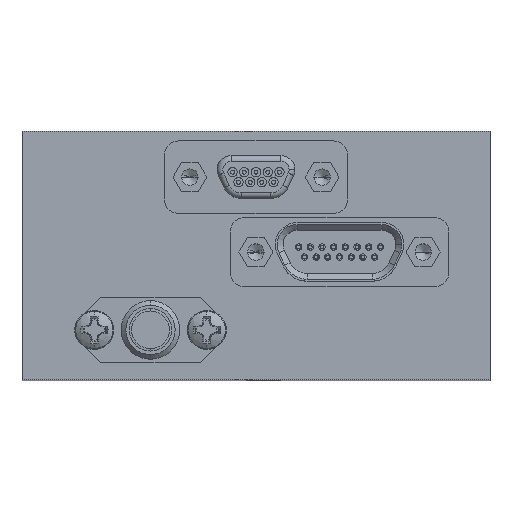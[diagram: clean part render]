
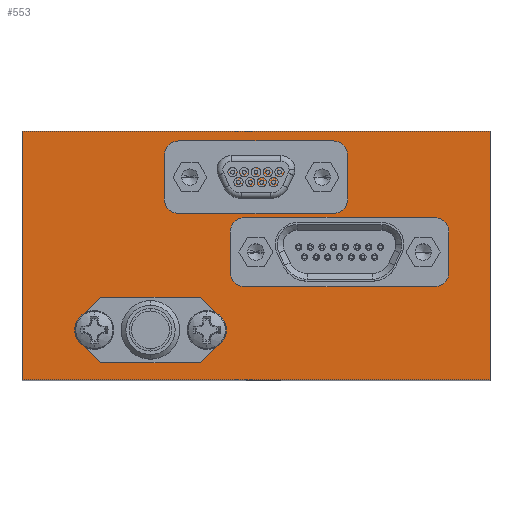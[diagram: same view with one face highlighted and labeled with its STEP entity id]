
A CAD part, top view. The second image highlights one B-rep face of the part: STEP entity #553.
In plain terms, the highlighted planar face has unit normal (0, 0, 1).
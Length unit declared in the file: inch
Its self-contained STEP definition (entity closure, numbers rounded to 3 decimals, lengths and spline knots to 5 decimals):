
#89 = DIRECTION ( 'NONE',  ( 0., 0., 1. ) ) ;
#204 = CIRCLE ( 'NONE', #15850, 0.01625 ) ;
#441 = EDGE_LOOP ( 'NONE', ( #11873, #1807 ) ) ;
#553 = ADVANCED_FACE ( 'NONE', ( #14785, #7347, #14635, #29196, #23839, #2289 ), #31094, .F. ) ;
#558 = CARTESIAN_POINT ( 'NONE',  ( 0., 1.062, 0. ) ) ;
#563 = VERTEX_POINT ( 'NONE', #11629 ) ;
#794 = CARTESIAN_POINT ( 'NONE',  ( 2., 0., 0. ) ) ;
#1580 = ORIENTED_EDGE ( 'NONE', *, *, #4910, .F. ) ;
#1768 = EDGE_LOOP ( 'NONE', ( #30789, #21768 ) ) ;
#1807 = ORIENTED_EDGE ( 'NONE', *, *, #23047, .F. ) ;
#2289 = FACE_OUTER_BOUND ( 'NONE', #9804, .T. ) ;
#2796 = EDGE_LOOP ( 'NONE', ( #28710, #4567 ) ) ;
#2813 = DIRECTION ( 'NONE',  ( 0., -1., 0. ) ) ;
#3402 = DIRECTION ( 'NONE',  ( 0., -1., 0. ) ) ;
#4567 = ORIENTED_EDGE ( 'NONE', *, *, #24326, .F. ) ;
#4684 = DIRECTION ( 'NONE',  ( 0., -1., 0. ) ) ;
#4779 = AXIS2_PLACEMENT_3D ( 'NONE', #13856, #89, #11645 ) ;
#4910 = EDGE_CURVE ( 'NONE', #21089, #11672, #7429, .T. ) ;
#5143 = CARTESIAN_POINT ( 'NONE',  ( 1.2825, 0.865, 0. ) ) ;
#5182 = CIRCLE ( 'NONE', #12238, 0.0375 ) ;
#5395 = AXIS2_PLACEMENT_3D ( 'NONE', #9634, #6934, #11531 ) ;
#5502 = CARTESIAN_POINT ( 'NONE',  ( 0.549, 0.2497, 0. ) ) ;
#5651 = CARTESIAN_POINT ( 'NONE',  ( 2., 1.062, 0. ) ) ;
#6394 = AXIS2_PLACEMENT_3D ( 'NONE', #7405, #24518, #2813 ) ;
#6635 = ORIENTED_EDGE ( 'NONE', *, *, #26699, .F. ) ;
#6934 = DIRECTION ( 'NONE',  ( 0., 0., 1. ) ) ;
#7315 = AXIS2_PLACEMENT_3D ( 'NONE', #9416, #28727, #19550 ) ;
#7347 = FACE_BOUND ( 'NONE', #2796, .T. ) ;
#7361 = DIRECTION ( 'NONE',  ( 0., 0., 1. ) ) ;
#7398 = DIRECTION ( 'NONE',  ( 0., -1., 0. ) ) ;
#7405 = CARTESIAN_POINT ( 'NONE',  ( 0.549, 0.2122, 0. ) ) ;
#7429 = CIRCLE ( 'NONE', #11469, 0.01625 ) ;
#7861 = VERTEX_POINT ( 'NONE', #12449 ) ;
#8465 = CARTESIAN_POINT ( 'NONE',  ( 0.7175, 0.84875, 0. ) ) ;
#8938 = EDGE_CURVE ( 'NONE', #563, #9822, #31160, .T. ) ;
#9273 = EDGE_CURVE ( 'NONE', #30607, #26691, #5182, .T. ) ;
#9416 = CARTESIAN_POINT ( 'NONE',  ( 0., 1.062, 0. ) ) ;
#9598 = CIRCLE ( 'NONE', #26778, 0.01625 ) ;
#9634 = CARTESIAN_POINT ( 'NONE',  ( 0.7175, 0.865, 0. ) ) ;
#9804 = EDGE_LOOP ( 'NONE', ( #26530, #6635, #19244, #19083 ) ) ;
#9822 = VERTEX_POINT ( 'NONE', #25037 ) ;
#10520 = LINE ( 'NONE', #558, #10606 ) ;
#10606 = VECTOR ( 'NONE', #29515, 39.37008 ) ;
#11025 = CARTESIAN_POINT ( 'NONE',  ( 0., 0., 0. ) ) ;
#11469 = AXIS2_PLACEMENT_3D ( 'NONE', #31139, #19275, #14360 ) ;
#11531 = DIRECTION ( 'NONE',  ( 0., -1., 0. ) ) ;
#11629 = CARTESIAN_POINT ( 'NONE',  ( 0., 1.062, 0. ) ) ;
#11645 = DIRECTION ( 'NONE',  ( 0., -1., 0. ) ) ;
#11646 = DIRECTION ( 'NONE',  ( 0., -1., 0. ) ) ;
#11672 = VERTEX_POINT ( 'NONE', #18758 ) ;
#11752 = DIRECTION ( 'NONE',  ( 0., -1., 0. ) ) ;
#11873 = ORIENTED_EDGE ( 'NONE', *, *, #16552, .F. ) ;
#12085 = VERTEX_POINT ( 'NONE', #14328 ) ;
#12238 = AXIS2_PLACEMENT_3D ( 'NONE', #24179, #12277, #4684 ) ;
#12277 = DIRECTION ( 'NONE',  ( 0., 0., 1. ) ) ;
#12449 = CARTESIAN_POINT ( 'NONE',  ( 1.2825, 0.88125, 0. ) ) ;
#12827 = CARTESIAN_POINT ( 'NONE',  ( 0.549, 0.1747, 0. ) ) ;
#12947 = EDGE_CURVE ( 'NONE', #9822, #26397, #20525, .T. ) ;
#13073 = VERTEX_POINT ( 'NONE', #16097 ) ;
#13204 = EDGE_CURVE ( 'NONE', #11672, #21089, #14071, .T. ) ;
#13379 = CARTESIAN_POINT ( 'NONE',  ( 0.9995, 0.5612, 0. ) ) ;
#13856 = CARTESIAN_POINT ( 'NONE',  ( 1.7145, 0.54495, 0. ) ) ;
#13967 = CARTESIAN_POINT ( 'NONE',  ( 1.2825, 0.84875, 0. ) ) ;
#13992 = CIRCLE ( 'NONE', #6394, 0.0375 ) ;
#14071 = CIRCLE ( 'NONE', #18127, 0.01625 ) ;
#14328 = CARTESIAN_POINT ( 'NONE',  ( 2., 1.062, 0. ) ) ;
#14360 = DIRECTION ( 'NONE',  ( 0., -1., 0. ) ) ;
#14635 = FACE_BOUND ( 'NONE', #24513, .T. ) ;
#14785 = FACE_BOUND ( 'NONE', #1768, .T. ) ;
#14866 = ORIENTED_EDGE ( 'NONE', *, *, #13204, .F. ) ;
#15850 = AXIS2_PLACEMENT_3D ( 'NONE', #29087, #28924, #7398 ) ;
#16097 = CARTESIAN_POINT ( 'NONE',  ( 1.7145, 0.5612, 0. ) ) ;
#16552 = EDGE_CURVE ( 'NONE', #20449, #7861, #9598, .T. ) ;
#16562 = ORIENTED_EDGE ( 'NONE', *, *, #27084, .F. ) ;
#16690 = EDGE_CURVE ( 'NONE', #563, #12085, #10520, .T. ) ;
#17809 = DIRECTION ( 'NONE',  ( 0., -1., 0. ) ) ;
#18127 = AXIS2_PLACEMENT_3D ( 'NONE', #24167, #22577, #17809 ) ;
#18758 = CARTESIAN_POINT ( 'NONE',  ( 0.9995, 0.5287, 0. ) ) ;
#18934 = EDGE_CURVE ( 'NONE', #30440, #13073, #22470, .T. ) ;
#19012 = VERTEX_POINT ( 'NONE', #20980 ) ;
#19083 = ORIENTED_EDGE ( 'NONE', *, *, #8938, .T. ) ;
#19244 = ORIENTED_EDGE ( 'NONE', *, *, #16690, .F. ) ;
#19275 = DIRECTION ( 'NONE',  ( 0., 0., 1. ) ) ;
#19401 = AXIS2_PLACEMENT_3D ( 'NONE', #25415, #20661, #3402 ) ;
#19550 = DIRECTION ( 'NONE',  ( 0., 1., 0. ) ) ;
#19896 = VERTEX_POINT ( 'NONE', #8465 ) ;
#20052 = VECTOR ( 'NONE', #24830, 39.37008 ) ;
#20449 = VERTEX_POINT ( 'NONE', #13967 ) ;
#20525 = LINE ( 'NONE', #11025, #23305 ) ;
#20661 = DIRECTION ( 'NONE',  ( 0., 0., 1. ) ) ;
#20810 = VECTOR ( 'NONE', #24531, 39.37008 ) ;
#20980 = CARTESIAN_POINT ( 'NONE',  ( 0.7175, 0.88125, 0. ) ) ;
#21089 = VERTEX_POINT ( 'NONE', #13379 ) ;
#21433 = CARTESIAN_POINT ( 'NONE',  ( 0.7175, 0.865, 0. ) ) ;
#21566 = CIRCLE ( 'NONE', #5395, 0.01625 ) ;
#21768 = ORIENTED_EDGE ( 'NONE', *, *, #26731, .F. ) ;
#22470 = CIRCLE ( 'NONE', #19401, 0.01625 ) ;
#22563 = ORIENTED_EDGE ( 'NONE', *, *, #26570, .F. ) ;
#22577 = DIRECTION ( 'NONE',  ( 0., 0., 1. ) ) ;
#23047 = EDGE_CURVE ( 'NONE', #7861, #20449, #204, .T. ) ;
#23120 = AXIS2_PLACEMENT_3D ( 'NONE', #21433, #30590, #11752 ) ;
#23305 = VECTOR ( 'NONE', #30800, 39.37008 ) ;
#23839 = FACE_BOUND ( 'NONE', #30058, .T. ) ;
#24167 = CARTESIAN_POINT ( 'NONE',  ( 0.9995, 0.54495, 0. ) ) ;
#24179 = CARTESIAN_POINT ( 'NONE',  ( 0.549, 0.2122, 0. ) ) ;
#24326 = EDGE_CURVE ( 'NONE', #13073, #30440, #29056, .T. ) ;
#24513 = EDGE_LOOP ( 'NONE', ( #14866, #1580 ) ) ;
#24518 = DIRECTION ( 'NONE',  ( 0., 0., 1. ) ) ;
#24531 = DIRECTION ( 'NONE',  ( 0., -1., 0. ) ) ;
#24830 = DIRECTION ( 'NONE',  ( 0., -1., 0. ) ) ;
#25037 = CARTESIAN_POINT ( 'NONE',  ( 0., 0., 0. ) ) ;
#25133 = CIRCLE ( 'NONE', #23120, 0.01625 ) ;
#25415 = CARTESIAN_POINT ( 'NONE',  ( 1.7145, 0.54495, 0. ) ) ;
#26397 = VERTEX_POINT ( 'NONE', #794 ) ;
#26530 = ORIENTED_EDGE ( 'NONE', *, *, #12947, .T. ) ;
#26570 = EDGE_CURVE ( 'NONE', #19012, #19896, #21566, .T. ) ;
#26585 = CARTESIAN_POINT ( 'NONE',  ( 0., 1.062, 0. ) ) ;
#26691 = VERTEX_POINT ( 'NONE', #5502 ) ;
#26699 = EDGE_CURVE ( 'NONE', #12085, #26397, #26736, .T. ) ;
#26731 = EDGE_CURVE ( 'NONE', #26691, #30607, #13992, .T. ) ;
#26736 = LINE ( 'NONE', #5651, #20052 ) ;
#26778 = AXIS2_PLACEMENT_3D ( 'NONE', #5143, #7361, #11646 ) ;
#27084 = EDGE_CURVE ( 'NONE', #19896, #19012, #25133, .T. ) ;
#27886 = CARTESIAN_POINT ( 'NONE',  ( 1.7145, 0.5287, 0. ) ) ;
#28710 = ORIENTED_EDGE ( 'NONE', *, *, #18934, .F. ) ;
#28727 = DIRECTION ( 'NONE',  ( 0., 0., -1. ) ) ;
#28924 = DIRECTION ( 'NONE',  ( 0., 0., 1. ) ) ;
#29056 = CIRCLE ( 'NONE', #4779, 0.01625 ) ;
#29087 = CARTESIAN_POINT ( 'NONE',  ( 1.2825, 0.865, 0. ) ) ;
#29196 = FACE_BOUND ( 'NONE', #441, .T. ) ;
#29515 = DIRECTION ( 'NONE',  ( 1., 0., 0. ) ) ;
#30058 = EDGE_LOOP ( 'NONE', ( #16562, #22563 ) ) ;
#30440 = VERTEX_POINT ( 'NONE', #27886 ) ;
#30590 = DIRECTION ( 'NONE',  ( 0., 0., 1. ) ) ;
#30607 = VERTEX_POINT ( 'NONE', #12827 ) ;
#30789 = ORIENTED_EDGE ( 'NONE', *, *, #9273, .F. ) ;
#30800 = DIRECTION ( 'NONE',  ( 1., 0., 0. ) ) ;
#31094 = PLANE ( 'NONE',  #7315 ) ;
#31139 = CARTESIAN_POINT ( 'NONE',  ( 0.9995, 0.54495, 0. ) ) ;
#31160 = LINE ( 'NONE', #26585, #20810 ) ;
